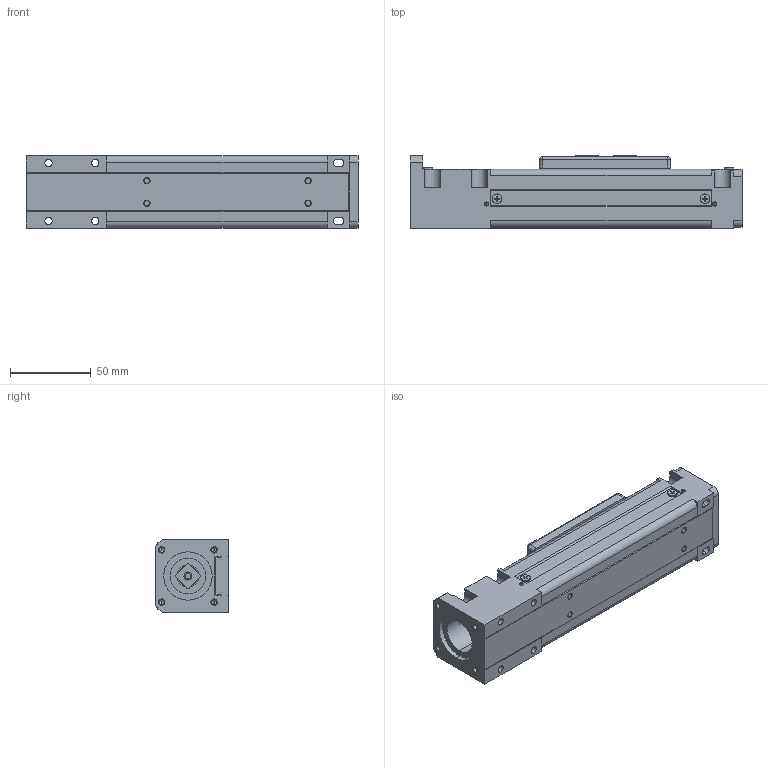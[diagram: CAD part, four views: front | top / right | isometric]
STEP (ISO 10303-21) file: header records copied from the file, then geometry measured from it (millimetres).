
FILE_DESCRIPTION (( 'STEP AP203' ), '1' );
FILE_NAME ('RL-45T-50.STEP', '2010-06-14T17:28:26', ( 'render' ), ( '' ), 'SwSTEP 2.0', 'SolidWorks 2009', '' );
FILE_SCHEMA (( 'CONFIG_CONTROL_DESIGN' ));
Length unit declared in the file: millimetre
Products named in the file (1): RL-45T-50
Bounding box: 206 x 45 x 45 mm (x, y, z)
Volume: 155762.4 mm3; surface area: 93385.6 mm2
Topology: 2 solids, 2 shells, 625 faces, 1645 edges, 1026 vertices
Faces by surface type: plane 410, cylinder 129, cone 78, bspline 8
Entity records: 19138 total; most frequent: CARTESIAN_POINT 3487, ORIENTED_EDGE 3250, DIRECTION 3165, EDGE_CURVE 1625, LINE 1261, VECTOR 1261, VERTEX_POINT 1026, AXIS2_PLACEMENT_3D 952
